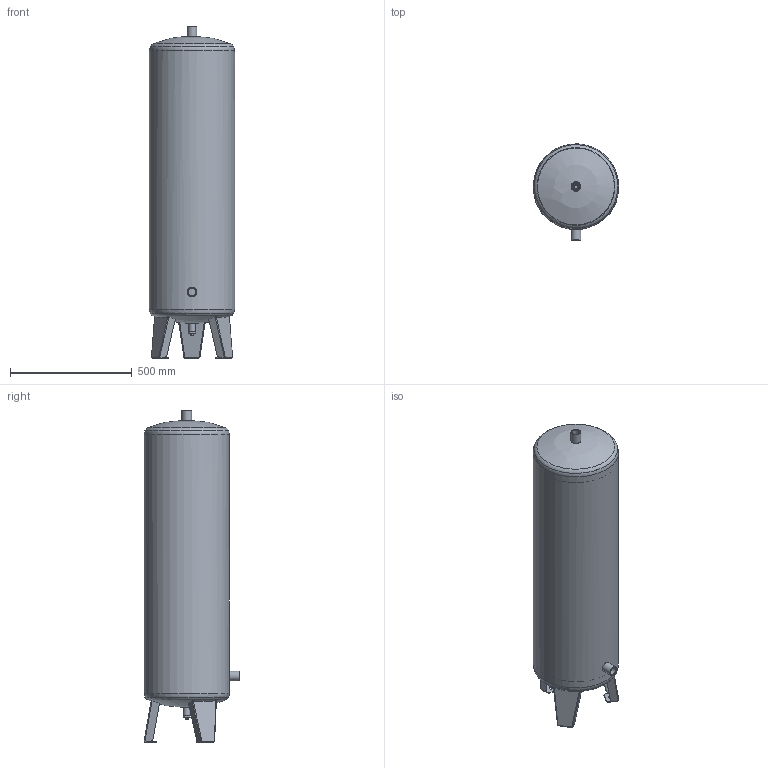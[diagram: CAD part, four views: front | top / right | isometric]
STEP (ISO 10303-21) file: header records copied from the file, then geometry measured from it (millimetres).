
FILE_DESCRIPTION((''),'2;1');
FILE_NAME('C:\Vault\Inventor\Expansion\elko-mat\EV\EV 100\EV100-10-110.stp','2012-06-11T14:06:34',('Walder'),(''),'Autodesk Inventor 11','Autodesk Inventor 11','');
FILE_SCHEMA(('AUTOMOTIVE_DESIGN { 1 0 10303 214 1 1 1 1 }'));
Length unit declared in the file: millimetre
Products named in the file (1): EV100-10-110
Bounding box: 349.61 x 392.95 x 1361.69 mm (x, y, z)
Volume: 4765414.3 mm3; surface area: 2973960.1 mm2
Topology: 4 solids, 4 shells, 456 faces, 1109 edges, 669 vertices
Faces by surface type: plane 214, cylinder 119, bspline 115, torus 5, cone 3
Full cylindrical faces by diameter (mm): 14 x1, 20 x1, 20.96 x1, 27 x1, 33.25 x1, 40 x2, 342 x2, 344 x1, 350 x1
Entity records: 19574 total; most frequent: CARTESIAN_POINT 9803, ORIENTED_EDGE 2140, DIRECTION 1693, EDGE_CURVE 1070, VERTEX_POINT 662, VECTOR 629, LINE 629, AXIS2_PLACEMENT_3D 532
